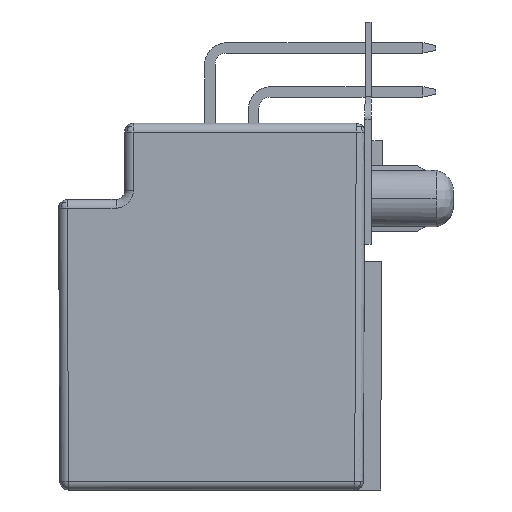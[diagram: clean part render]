
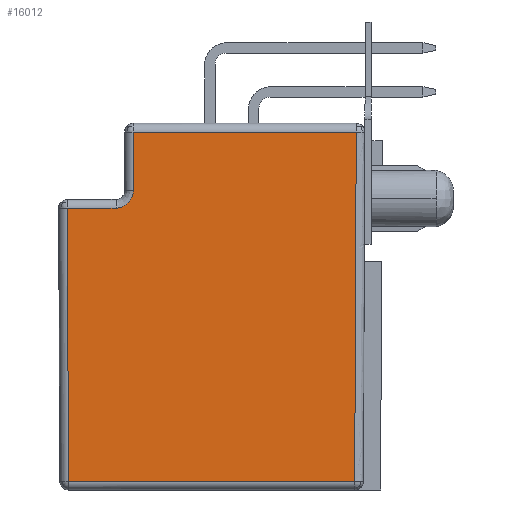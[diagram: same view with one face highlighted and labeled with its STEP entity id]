
A CAD part, left-side view. The second image highlights one B-rep face of the part: STEP entity #16012.
In plain terms, the highlighted planar face has unit normal (-1, 0, -0.004).
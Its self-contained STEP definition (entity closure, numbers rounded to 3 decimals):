
#4565=DIRECTION('',(0.,1.,0.));
#4566=VECTOR('',#4565,16.549);
#4567=CARTESIAN_POINT('',(-4.179,-5.855,
0.048));
#4568=LINE('',#4567,#4566);
#4637=DIRECTION('',(0.004,-0.004,-1.));
#4638=VECTOR('',#4637,15.8);
#4639=CARTESIAN_POINT('',(-4.248,10.764,15.848));
#4640=LINE('',#4639,#4638);
#4641=CARTESIAN_POINT('',(-4.252,6.943,16.852));
#4642=CARTESIAN_POINT('',(-4.252,6.943,16.787));
#4643=CARTESIAN_POINT('',(-4.251,6.957,16.657));
#4644=CARTESIAN_POINT('',(-4.25,7.019,16.471));
#4645=CARTESIAN_POINT('',(-4.25,7.115,16.3));
#4646=CARTESIAN_POINT('',(-4.249,7.241,16.149));
#4647=CARTESIAN_POINT('',(-4.248,7.392,16.022));
#4648=CARTESIAN_POINT('',(-4.248,7.563,15.925));
#4649=CARTESIAN_POINT('',(-4.248,7.748,15.863));
#4650=CARTESIAN_POINT('',(-4.248,7.877,15.848));
#4651=CARTESIAN_POINT('',(-4.248,7.943,15.848));
#4653=DIRECTION('',(0.004,-0.004,-1.));
#4654=VECTOR('',#4653,3.396);
#4655=CARTESIAN_POINT('',(-4.267,6.958,20.248));
#4656=LINE('',#4655,#4654);
#4657=DIRECTION('',(-0.004,-0.004,1.));
#4658=VECTOR('',#4657,20.2);
#4659=CARTESIAN_POINT('',(-4.179,-5.855,
0.048));
#4660=LINE('',#4659,#4658);
#4665=DIRECTION('',(0.,-1.,0.));
#4666=VECTOR('',#4665,2.821);
#4667=CARTESIAN_POINT('',(-4.248,10.764,15.848));
#4668=LINE('',#4667,#4666);
#5065=DIRECTION('',(0.,-1.,0.));
#5066=VECTOR('',#5065,12.901);
#5067=CARTESIAN_POINT('',(-4.267,6.958,20.248));
#5068=LINE('',#5067,#5066);
#7413=CARTESIAN_POINT('',(-4.248,10.764,15.848));
#7414=CARTESIAN_POINT('',(-4.248,7.943,15.848));
#7415=VERTEX_POINT('',#7413);
#7416=VERTEX_POINT('',#7414);
#7417=VERTEX_POINT('',#4641);
#7418=CARTESIAN_POINT('',(-4.267,6.958,20.248));
#7419=VERTEX_POINT('',#7418);
#7420=CARTESIAN_POINT('',(-4.267,-5.943,
20.248));
#7421=VERTEX_POINT('',#7420);
#7422=CARTESIAN_POINT('',(-4.179,-5.855,
0.048));
#7423=VERTEX_POINT('',#7422);
#7424=CARTESIAN_POINT('',(-4.179,10.695,
0.048));
#7425=VERTEX_POINT('',#7424);
#15993=CARTESIAN_POINT('',(-4.22,6.2,9.625));
#15994=DIRECTION('',(1.,0.,0.004));
#15995=DIRECTION('',(0.,1.,0.));
#15996=AXIS2_PLACEMENT_3D('',#15993,#15994,#15995);
#15997=PLANE('',#15996);
#15998=ORIENTED_EDGE('',*,*,#15812,.T.);
#15999=ORIENTED_EDGE('',*,*,#15706,.F.);
#16001=ORIENTED_EDGE('',*,*,#16000,.T.);
#16003=ORIENTED_EDGE('',*,*,#16002,.F.);
#16005=ORIENTED_EDGE('',*,*,#16004,.F.);
#16007=ORIENTED_EDGE('',*,*,#16006,.T.);
#16009=ORIENTED_EDGE('',*,*,#16008,.F.);
#16010=EDGE_LOOP('',(#15998,#15999,#16001,#16003,#16005,#16007,#16009));
#16011=FACE_OUTER_BOUND('',#16010,.F.);
#16012=ADVANCED_FACE('',(#16011),#15997,.F.);
#4652=B_SPLINE_CURVE_WITH_KNOTS('',3,(#4641,#4642,#4643,#4644,#4645,#4646,#4647,
#4648,#4649,#4650,#4651),.UNSPECIFIED.,.F.,.F.,(4,1,1,1,1,1,1,1,4),(0.,
0.125,0.25,0.375,0.5,
0.625,0.75,0.875,1.),.UNSPECIFIED.);
#15706=EDGE_CURVE('',#7415,#7425,#4640,.T.);
#15812=EDGE_CURVE('',#7423,#7425,#4568,.T.);
#16000=EDGE_CURVE('',#7415,#7416,#4668,.T.);
#16002=EDGE_CURVE('',#7417,#7416,#4652,.T.);
#16004=EDGE_CURVE('',#7419,#7417,#4656,.T.);
#16006=EDGE_CURVE('',#7419,#7421,#5068,.T.);
#16008=EDGE_CURVE('',#7423,#7421,#4660,.T.);
